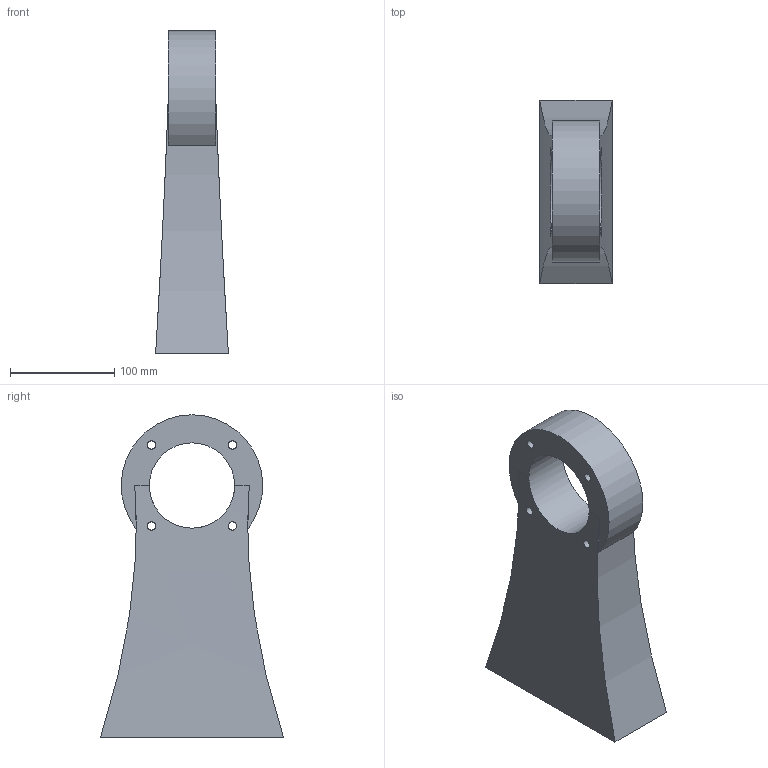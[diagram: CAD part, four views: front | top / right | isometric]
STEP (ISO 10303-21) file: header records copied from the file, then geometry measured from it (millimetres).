
FILE_DESCRIPTION(('Open CASCADE Model'),'2;1');
FILE_NAME('Open CASCADE Shape Model','2026-10-08T06:53:14',('Author'),( 'Open CASCADE'),'Open CASCADE STEP processor 7.8','Open CASCADE 7.8' ,'Unknown');
FILE_SCHEMA(('AUTOMOTIVE_DESIGN { 1 0 10303 214 1 1 1 1 }'));
Length unit declared in the file: millimetre
Products named in the file (1): Open CASCADE STEP translator 7.8 9
Bounding box: 70 x 176 x 310 mm (x, y, z)
Volume: 1894499.7 mm3; surface area: 135875.3 mm2
Topology: 1 solids, 1 shells, 17 faces, 43 edges, 28 vertices
Faces by surface type: cylinder 8, plane 5, bspline 4
Full cylindrical faces by diameter (mm): 8 x4, 9 x2, 82 x1
Entity records: 2352 total; most frequent: CARTESIAN_POINT 1573, DIRECTION 105, ORIENTED_EDGE 86, PCURVE 86, DEFINITIONAL_REPRESENTATION 86, B_SPLINE_CURVE_WITH_KNOTS 56, LINE 49, VECTOR 49
